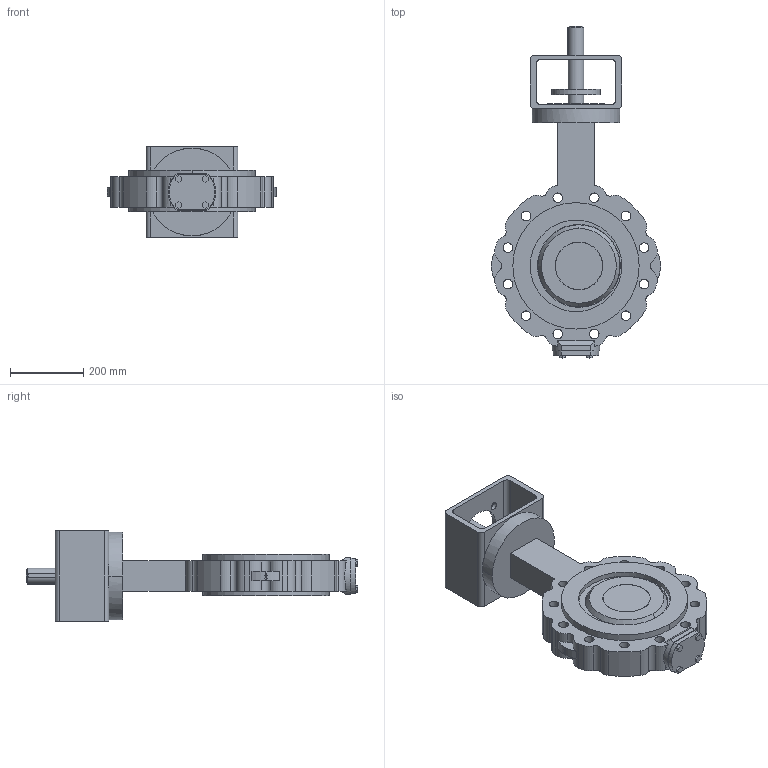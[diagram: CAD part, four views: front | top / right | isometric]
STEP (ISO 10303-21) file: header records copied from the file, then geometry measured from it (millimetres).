
FILE_DESCRIPTION( ( '' ), '1' );
FILE_NAME( 'F:/DE-SHS/TB/OR/04-Sonstiges/daten/files_3d/018_ZETRIX-PN10_freiesWellende/c000006383.stp', '2016-09-01T11:05:53', ( '' ), ( '' ), ' ', ' ', ' ' );
FILE_SCHEMA( ( 'CONFIG_CONTROL_DESIGN' ) );
Length unit declared in the file: millimetre
Products named in the file (1): 1
Bounding box: 462 x 906.4 x 248 mm (x, y, z)
Volume: 18048110.1 mm3; surface area: 1183307.5 mm2
Topology: 1 solids, 1 shells, 257 faces, 701 edges, 467 vertices
Faces by surface type: cylinder 148, plane 101, sphere 4, cone 4
Entity records: 9127 total; most frequent: CARTESIAN_POINT 2223, DIRECTION 1508, ORIENTED_EDGE 1402, EDGE_CURVE 701, AXIS2_PLACEMENT_3D 585, VERTEX_POINT 467, LINE 338, VECTOR 338
